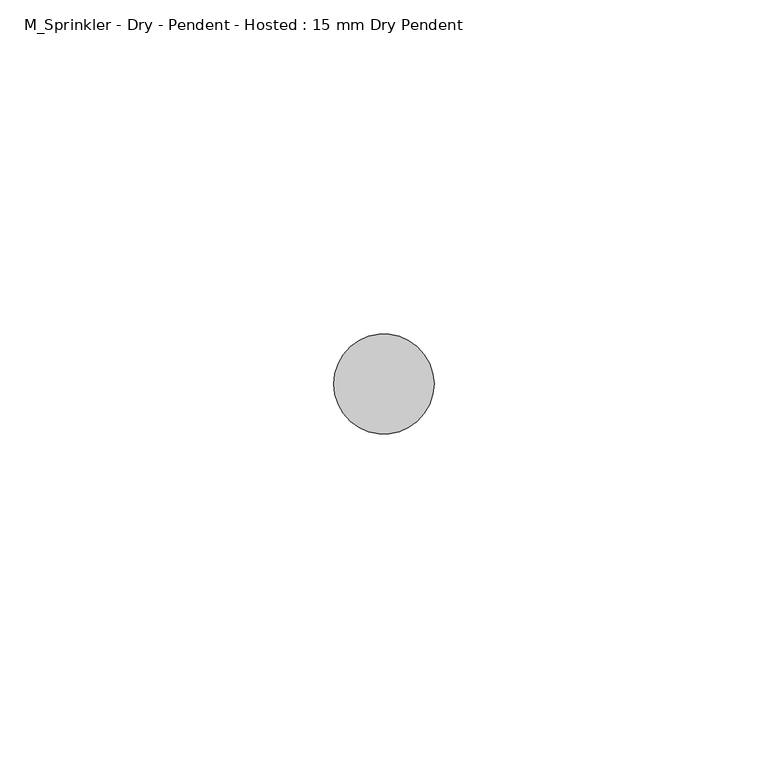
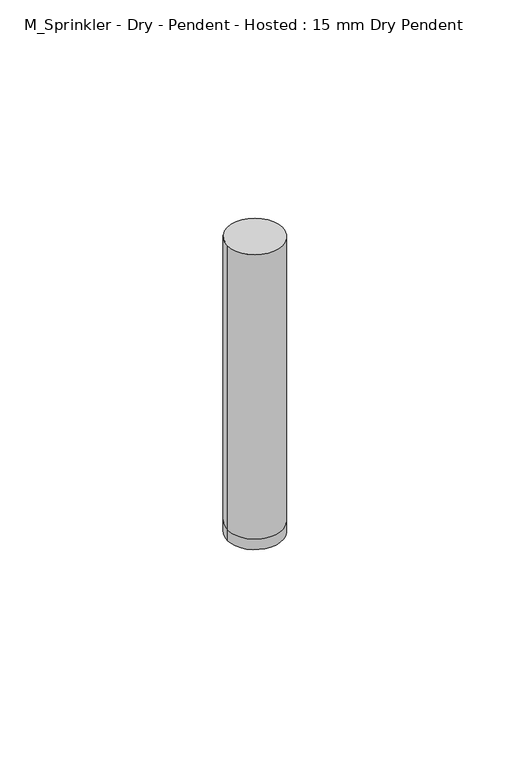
"""IFC4 building model written with IfcOpenShell, lengths in millimetres: fire suppression terminal geometry, M_Sprinkler - Dry - Pendent - Hosted : 15 mm Dry Pendent."""

from ifc_helpers import new_model, si_unit, frame, origin, origin_with_axes, place, context, project, spatial, circle_curve, source, transform, mapped, element, save
from ifc_brep_helpers import plane_surface, cylinder_surface, advanced_brep


def m_sprinkler_dry_pendent_hosted_15_mm_dry_pendent_9bda8e11(model_context):
    return source(origin(), model_context, "Body", "AdvancedBrep", [
        advanced_brep(
        [(-7.5, 0.0, 0.0), (7.5, 0.0, 0.0), (7.5, 0.0, 3.0), (-7.5, 0.0, 3.0), (-7.5, 0.0, 85.0), (7.5, 0.0, 85.0)],
        [
            (0, 1, circle_curve(frame((0.0, 0.0, 0.0), z_axis=(0.0, 0.0, -1.0), x_axis=(1.0, 0.0, 0.0)), 7.5)),
            (1, 0, circle_curve(frame((0.0, 0.0, 0.0), z_axis=(0.0, 0.0, -1.0), x_axis=(1.0, 0.0, 0.0)), 7.5)),
            (1, 2),
            (2, 3, circle_curve(frame((0.0, 0.0, 3.0), z_axis=(0.0, 0.0, -1.0), x_axis=(1.0, 0.0, 0.0)), 7.5)),
            (3, 0),
            (3, 2, circle_curve(frame((0.0, 0.0, 3.0), z_axis=(0.0, 0.0, -1.0), x_axis=(1.0, 0.0, 0.0)), 7.5)),
            (4, 5, circle_curve(frame((0.0, 0.0, 85.0), z_axis=(0.0, 0.0, 1.0), x_axis=(1.0, 0.0, 0.0)), 7.5)),
            (5, 4, circle_curve(frame((0.0, 0.0, 85.0), z_axis=(0.0, 0.0, 1.0), x_axis=(1.0, 0.0, 0.0)), 7.5)),
            (4, 3),
            (2, 5),
        ],
        [
            plane_surface(frame((7.5, 0.0, 0.0), z_axis=(0.0, 0.0, -1.0), x_axis=(0.0, -1.0, 0.0))),
            cylinder_surface(origin_with_axes(), 7.5),
            plane_surface(frame((7.5, 0.0, 85.0), z_axis=(0.0, 0.0, 1.0), x_axis=(0.0, 1.0, 0.0))),
        ],
        [
            (0, [[1, 2]]),
            (1, [[-2, 3, 4, 5]]),
            (1, [[-1, -5, 6, -3]]),
            (2, [[7, 8]]),
            (1, [[-7, 9, -4, 10]]),
            (1, [[-8, -10, -6, -9]]),
        ],
    ),
    ])


if __name__ == "__main__":
    model = new_model("IFC4")
    model_context = context("Model", 3, world=origin())
    ifc_project = project(units=[si_unit("LENGTHUNIT", "METRE", prefix="MILLI")], contexts=[model_context])
    site = spatial("IfcSite", under=ifc_project)
    building = spatial("IfcBuilding", under=site)
    placement = place(None, origin())
    m_sprinkler_dry_pendent_hosted_15_mm_dry_pendent_shape = m_sprinkler_dry_pendent_hosted_15_mm_dry_pendent_9bda8e11(model_context)
    element("IfcFireSuppressionTerminal", 1, ObjectType="M_Sprinkler - Dry - Pendent - Hosted : 15 mm Dry Pendent", at=placement, inside=building, context=model_context, shape_type="MappedRepresentation", body=[
        mapped(m_sprinkler_dry_pendent_hosted_15_mm_dry_pendent_shape, transform((0.0, 0.0, 0.0), x_axis=(1.0, 0.0, 0.0), y_axis=(0.0, 1.0, 0.0), z_axis=(0.0, 0.0, 1.0))),
    ])
    save(model, "model.ifc")
